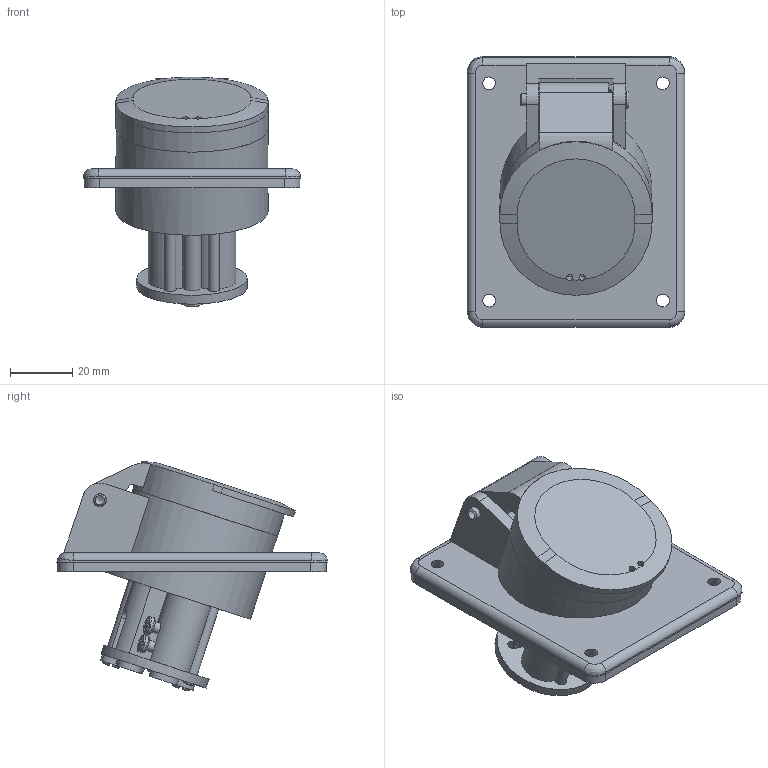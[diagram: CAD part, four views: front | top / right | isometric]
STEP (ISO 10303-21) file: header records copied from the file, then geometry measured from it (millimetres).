
FILE_DESCRIPTION(/* description */ (''),/* implementation_level */ '2;1');
FILE_NAME(/* name */ '4006082.stp',/* time_stamp */ '2020-01-10T08:09:09+01:00',/* author */ (''),/* organization */ (''),/* preprocessor_version */ 'ST-DEVELOPER v16.7',/* originating_system */ 'SIEMENS PLM Software NX 1892',/* authorisation */ '');
FILE_SCHEMA (('AUTOMOTIVE_DESIGN { 1 0 10303 214 3 1 1 1 }'));
Length unit declared in the file: millimetre
Products named in the file (1): BSOMC9841A90vrxn
Bounding box: 70 x 87.2 x 74.04 mm (x, y, z)
Volume: 79322.1 mm3; surface area: 60542.7 mm2
Topology: 14 solids, 14 shells, 1108 faces, 2668 edges, 1560 vertices
Faces by surface type: plane 328, cylinder 308, torus 208, bspline 170, cone 53, sphere 41
Full cylindrical faces by diameter (mm): 1 x3, 2 x2, 2.2 x2, 3 x2, 3.1 x2, 3.2 x4, 3.5 x11, 3.8 x3, 4 x3, 4.2 x2, 4.5 x1, 4.7 x2, 5.7 x2, 5.8 x4, 6 x6, 7 x2, 7.2 x1, 7.5 x2, 8 x2, 9.5 x2, 10 x2, 35.6 x1, 40 x1, 45 x1, 49 x3
Entity records: 40805 total; most frequent: CARTESIAN_POINT 17126, DIRECTION 4969, ORIENTED_EDGE 4606, EDGE_CURVE 2303, AXIS2_PLACEMENT_3D 2060, VERTEX_POINT 1496, EDGE_LOOP 1433, ADVANCED_FACE 1107
